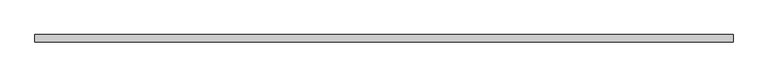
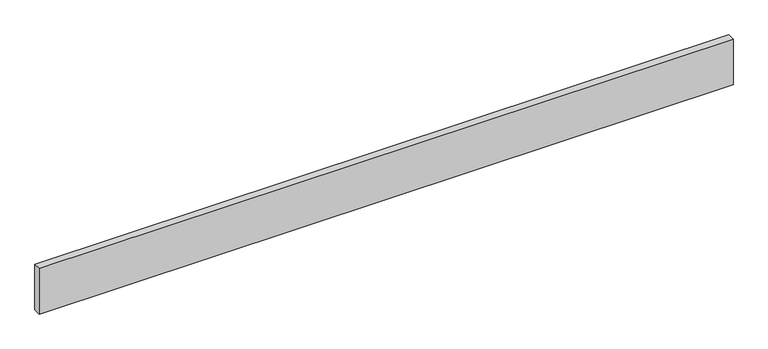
"""IFC4 building model written with IfcOpenShell, lengths in millimetres: proxy geometry, AERO^TABLE 5_54120 CTR TROUGH-POWER LID."""

from ifc_helpers import new_model, si_unit, frame, origin, place, context, project, spatial, polyline, outline, extrude, source, transform, mapped, element, save


def generic_models_c50f7457(model_context):
    return source(origin(), model_context, "Body", "SweptSolid", [
        extrude(outline(polyline([(1825.625, 0.0), (0.0, 0.0), (0.0, 19.05), (1825.625, 19.05), (1825.625, 0.0)])), frame((0.0, 0.0, -127.0), z_axis=(0.0, 0.0, 1.0), x_axis=(1.0, 0.0, 0.0)), (0.0, 0.0, 1.0), 127.0),
    ])


if __name__ == "__main__":
    model = new_model("IFC4")
    model_context = context("Model", 3, world=origin())
    ifc_project = project(units=[si_unit("LENGTHUNIT", "METRE", prefix="MILLI")], contexts=[model_context])
    site = spatial("IfcSite", under=ifc_project)
    building = spatial("IfcBuilding", under=site)
    placement = place(None, origin())
    generic_models_shape = generic_models_c50f7457(model_context)
    element("IfcBuildingElementProxy", 1, Name="AERO^TABLE 5_54120 CTR TROUGH-POWER LID", ObjectType="AERO^TABLE 5_54120 CTR TROUGH-POWER LID", at=placement, inside=building, context=model_context, shape_type="MappedRepresentation", body=[
        mapped(generic_models_shape, transform((0.0, 0.0, 0.0), x_axis=(1.0, 0.0, 0.0), y_axis=(0.0, 1.0, 0.0), z_axis=(0.0, 0.0, 1.0))),
    ])
    save(model, "model.ifc")
